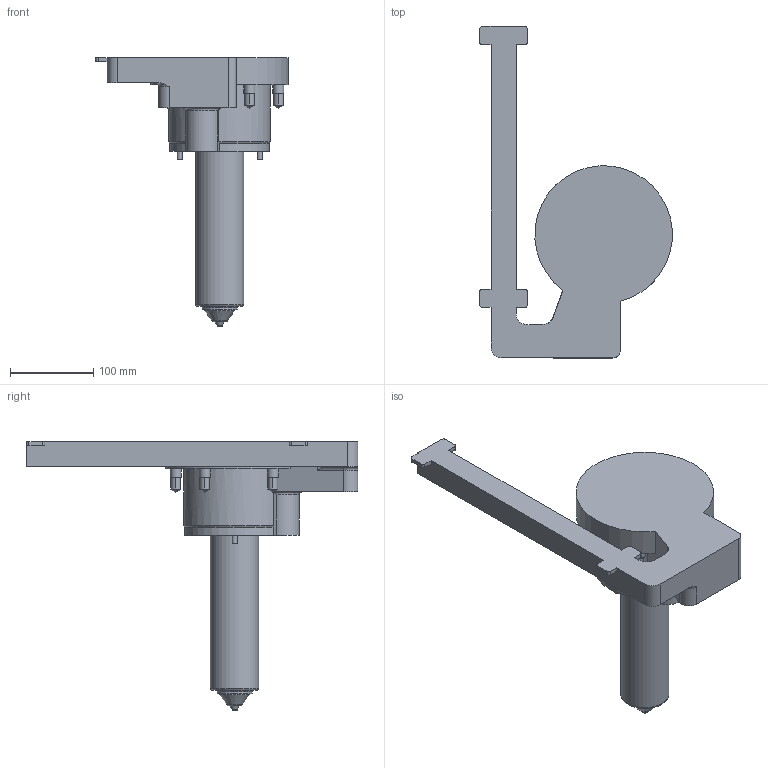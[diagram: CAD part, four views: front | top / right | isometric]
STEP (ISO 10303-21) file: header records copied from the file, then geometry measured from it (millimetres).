
FILE_DESCRIPTION( ( 'STEP AP214' ), '1' );
FILE_NAME( 'S:/PROIECTE_YUDO_2009_dupa_1.07.2009/PROIECTE YUDO 3D 01.07.2009/SAS/YUEU09-SAS42VC290_6/YUEU09-SAS42VC290_cutout.step', '2009-10-13T11:43:08', ( ' ' ), ( ' ' ), 'XStep 1.0', ' ', ' ' );
FILE_SCHEMA( ( 'automotive_design' ) );
Length unit declared in the file: millimetre
Products named in the file (1): 1
Bounding box: 230.8 x 398 x 322.5 mm (x, y, z)
Volume: 2987935.4 mm3; surface area: 213432 mm2
Topology: 1 solids, 1 shells, 116 faces, 289 edges, 192 vertices
Faces by surface type: plane 58, cylinder 45, cone 9, torus 4
Full cylindrical faces by diameter (mm): 6 x3, 10.5 x1, 11.35 x5, 13 x5, 36 x1, 42 x1, 58 x1
Entity records: 4218 total; most frequent: CARTESIAN_POINT 610, DIRECTION 572, ORIENTED_EDGE 494, EDGE_CURVE 247, AXIS2_PLACEMENT_3D 216, VERTEX_POINT 182, EDGE_LOOP 160, LINE 140
